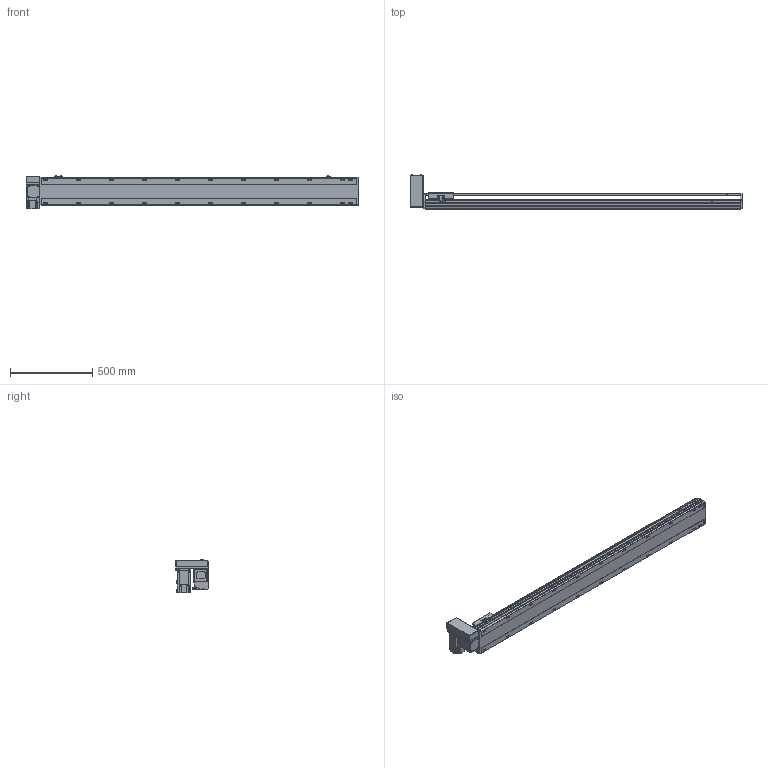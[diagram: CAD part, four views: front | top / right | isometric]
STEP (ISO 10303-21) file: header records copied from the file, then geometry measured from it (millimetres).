
FILE_DESCRIPTION( ( 'STEP AP214' ), '1' );
FILE_NAME( 'x:/temp/worker_5/temp/exporttempdir_3988_134_qi6CS/format_0/PBS170-P40-S1650-RU-T75-C1-N(0).stp', '2022-06-08T05:59:25', ( 'License CC BY-ND 4.0' ), ( 'CADENAS' ), ' ', 'PARTsolutions', ' ' );
FILE_SCHEMA( ( 'AUTOMOTIVE_DESIGN { 1 0 10303 214 1 1 1 1 }' ) );
Length unit declared in the file: millimetre
Products named in the file (7): PBS170-P40-S1650-RU-T75-C1-N(0); _PBS170-S1650()_body; _PBS170T-RU_motors; _T75-p1; _PBS170_sliser; _PBS170_plant; _PBS170_sensor
Assembly tree (8 placements, depth 2):
  PBS170-P40-S1650-RU-T75-C1-N(0)
    _PBS170-S1650()_body
    _PBS170T-RU_motors
    _T75-p1
    _PBS170_sliser
    _PBS170_plant
    _PBS170_sensor  x3
Bounding box: 2013 x 206 x 205.3 mm (x, y, z)
Volume: 15619127.4 mm3; surface area: 2000026.9 mm2
Topology: 8 solids, 8 shells, 1130 faces, 2995 edges, 1952 vertices
Faces by surface type: plane 705, cylinder 363, cone 52, sphere 8, torus 2
Full cylindrical faces by diameter (mm): 3.242 x4, 4 x2, 4.4 x4, 4.5 x6, 4.917 x4, 6 x9, 6.647 x30, 7 x2, 7.5 x4, 8 x8, 8.5 x22, 10 x4, 10.5 x22, 11 x2, 30 x2, 40 x1, 70 x1
Entity records: 41666 total; most frequent: CARTESIAN_POINT 6725, DIRECTION 5510, ORIENTED_EDGE 5208, EDGE_CURVE 2604, AXIS2_PLACEMENT_3D 1927, VERTEX_POINT 1802, LINE 1656, VECTOR 1656
